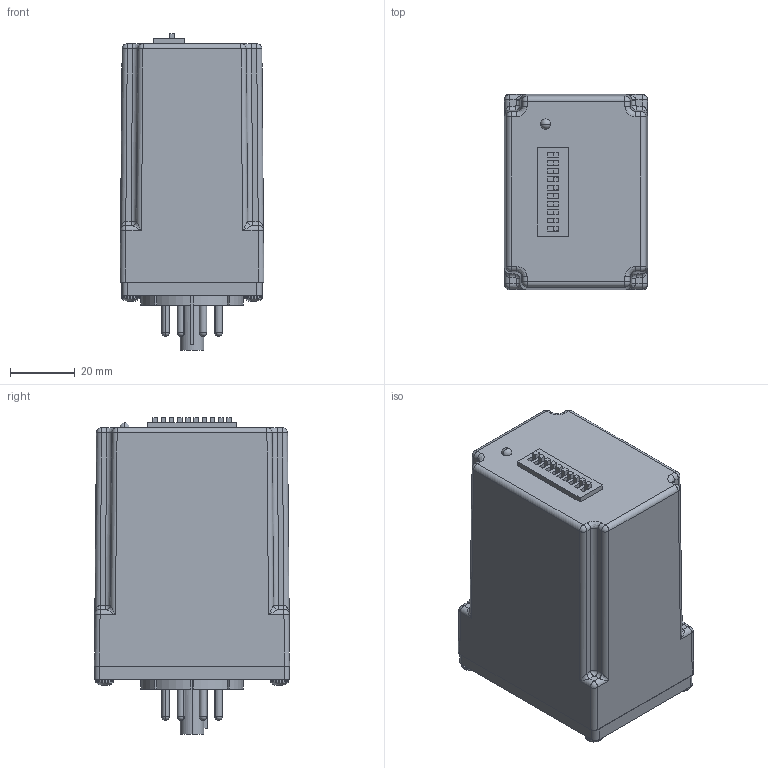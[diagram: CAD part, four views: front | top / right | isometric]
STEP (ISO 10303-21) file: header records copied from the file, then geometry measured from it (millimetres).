
FILE_DESCRIPTION (( 'STEP AP203' ), '1' );
FILE_NAME ('TD-8 Single.step', '2014-09-05T02:54:59', ( 'JLohr' ), ( '' ), 'SwSTEP 2.0', 'SolidWorks 2007', '' );
FILE_SCHEMA (( 'CONFIG_CONTROL_DESIGN' ));
Length unit declared in the file: inch
Products named in the file (1): TD-8 Single
Bounding box: 44.45 x 60.33 x 97.87 mm (x, y, z)
Volume: 200893.5 mm3; surface area: 29743.2 mm2
Topology: 26 solids, 26 shells, 797 faces, 2055 edges, 1315 vertices
Faces by surface type: plane 333, cylinder 280, bspline 114, cone 40, sphere 30
Entity records: 34658 total; most frequent: CARTESIAN_POINT 17032, ORIENTED_EDGE 4006, DIRECTION 3051, EDGE_CURVE 2003, VERTEX_POINT 1297, LINE 1019, VECTOR 1019, AXIS2_PLACEMENT_3D 1016
